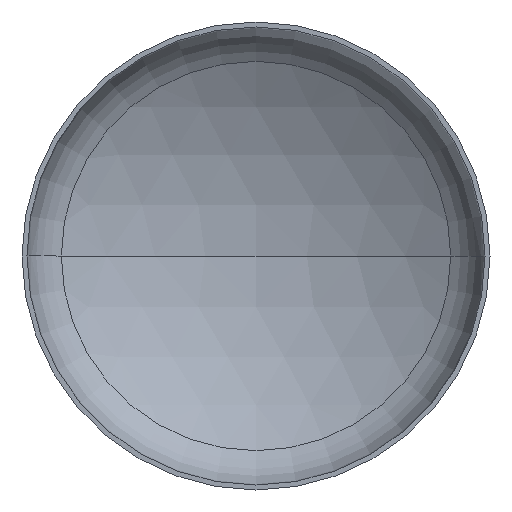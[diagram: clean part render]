
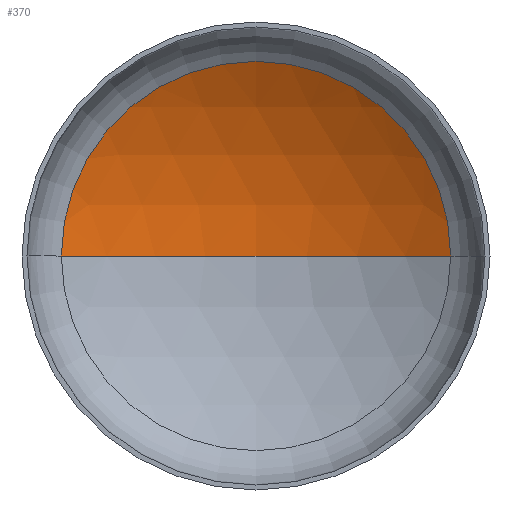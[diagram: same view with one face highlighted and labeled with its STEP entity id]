
A CAD part, front view. The second image highlights one B-rep face of the part: STEP entity #370.
In plain terms, the highlighted spherical face has radius 1360 mm.
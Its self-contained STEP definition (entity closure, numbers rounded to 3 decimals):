
#4 = AXIS2_PLACEMENT_3D ( 'NONE', #353, #77, #118 ) ;
#7 = DIRECTION ( 'NONE',  ( 1., 0., 0. ) ) ;
#15 = DIRECTION ( 'NONE',  ( 0., -1., 0. ) ) ;
#33 = EDGE_LOOP ( 'NONE', ( #140, #93, #145 ) ) ;
#36 = AXIS2_PLACEMENT_3D ( 'NONE', #397, #355, #177 ) ;
#37 = AXIS2_PLACEMENT_3D ( 'NONE', #278, #15, #7 ) ;
#43 = VERTEX_POINT ( 'NONE', #237 ) ;
#53 = VERTEX_POINT ( 'NONE', #365 ) ;
#77 = DIRECTION ( 'NONE',  ( 0., 0., 1. ) ) ;
#84 = DIRECTION ( 'NONE',  ( 0., 0., -1. ) ) ;
#89 = EDGE_CURVE ( 'NONE', #43, #179, #302, .T. ) ;
#92 = EDGE_CURVE ( 'NONE', #53, #43, #250, .T. ) ;
#93 = ORIENTED_EDGE ( 'NONE', *, *, #92, .T. ) ;
#118 = DIRECTION ( 'NONE',  ( 1., 0., 0. ) ) ;
#140 = ORIENTED_EDGE ( 'NONE', *, *, #358, .F. ) ;
#145 = ORIENTED_EDGE ( 'NONE', *, *, #89, .T. ) ;
#177 = DIRECTION ( 'NONE',  ( -1., 0., 0. ) ) ;
#179 = VERTEX_POINT ( 'NONE', #262 ) ;
#209 = AXIS2_PLACEMENT_3D ( 'NONE', #401, #84, #360 ) ;
#237 = CARTESIAN_POINT ( 'NONE',  ( 707.2, 277.083, 0. ) ) ;
#250 = CIRCLE ( 'NONE', #36, 1360. ) ;
#262 = CARTESIAN_POINT ( 'NONE',  ( -707.2, 277.083, 0. ) ) ;
#263 = SPHERICAL_SURFACE ( 'NONE', #209, 1360. ) ;
#272 = FACE_OUTER_BOUND ( 'NONE', #33, .T. ) ;
#278 = CARTESIAN_POINT ( 'NONE',  ( 0., 277.083, 0. ) ) ;
#302 = CIRCLE ( 'NONE', #37, 707.2 ) ;
#353 = CARTESIAN_POINT ( 'NONE',  ( 0., -884.583, 0. ) ) ;
#355 = DIRECTION ( 'NONE',  ( 0., 0., -1. ) ) ;
#358 = EDGE_CURVE ( 'NONE', #53, #179, #388, .T. ) ;
#360 = DIRECTION ( 'NONE',  ( -1., 0., 0. ) ) ;
#365 = CARTESIAN_POINT ( 'NONE',  ( 0., 475.417, 0. ) ) ;
#370 = ADVANCED_FACE ( 'NONE', ( #272 ), #263, .F. ) ;
#388 = CIRCLE ( 'NONE', #4, 1360. ) ;
#397 = CARTESIAN_POINT ( 'NONE',  ( 0., -884.583, 0. ) ) ;
#401 = CARTESIAN_POINT ( 'NONE',  ( 0., -884.583, 0. ) ) ;
